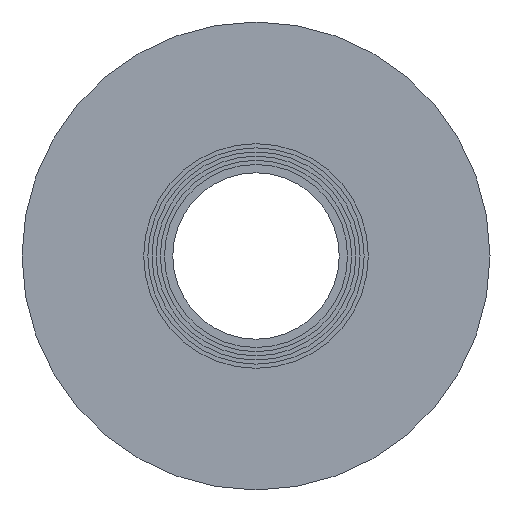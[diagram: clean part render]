
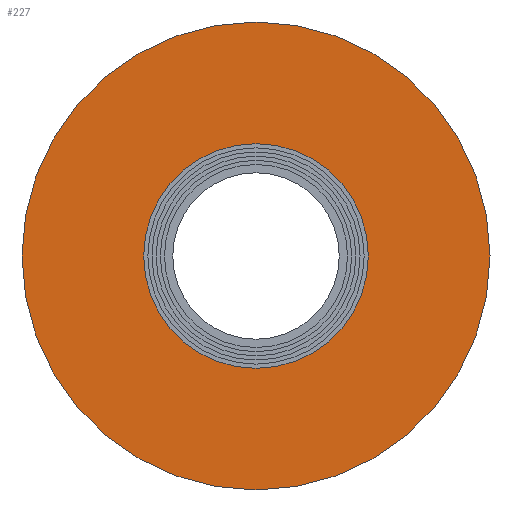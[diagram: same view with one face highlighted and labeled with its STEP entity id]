
A CAD part, left-side view. The second image highlights one B-rep face of the part: STEP entity #227.
In plain terms, the highlighted planar face has unit normal (-1, 0, 0).
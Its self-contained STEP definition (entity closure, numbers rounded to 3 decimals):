
#19=PLANE('',#265);
#45=FACE_BOUND('',#98,.T.);
#65=FACE_OUTER_BOUND('',#97,.T.);
#97=EDGE_LOOP('',(#197));
#98=EDGE_LOOP('',(#198));
#128=CIRCLE('',#263,10.8);
#129=CIRCLE('',#266,22.5);
#148=VERTEX_POINT('',#401);
#149=VERTEX_POINT('',#405);
#168=EDGE_CURVE('',#148,#148,#128,.T.);
#169=EDGE_CURVE('',#149,#149,#129,.T.);
#197=ORIENTED_EDGE('',*,*,#169,.F.);
#198=ORIENTED_EDGE('',*,*,#168,.T.);
#227=ADVANCED_FACE('',(#65,#45),#19,.T.);
#263=AXIS2_PLACEMENT_3D('',#402,#331,#332);
#265=AXIS2_PLACEMENT_3D('',#404,#335,#336);
#266=AXIS2_PLACEMENT_3D('',#406,#337,#338);
#331=DIRECTION('center_axis',(1.,0.,0.));
#332=DIRECTION('ref_axis',(0.,0.,-1.));
#335=DIRECTION('center_axis',(-1.,0.,0.));
#336=DIRECTION('ref_axis',(0.,0.,1.));
#337=DIRECTION('center_axis',(1.,0.,0.));
#338=DIRECTION('ref_axis',(0.,0.,-1.));
#401=CARTESIAN_POINT('',(-85.,0.,10.8));
#402=CARTESIAN_POINT('Origin',(-85.,0.,0.));
#404=CARTESIAN_POINT('Origin',(-85.,22.5,0.));
#405=CARTESIAN_POINT('',(-85.,22.5,0.));
#406=CARTESIAN_POINT('Origin',(-85.,0.,0.));
